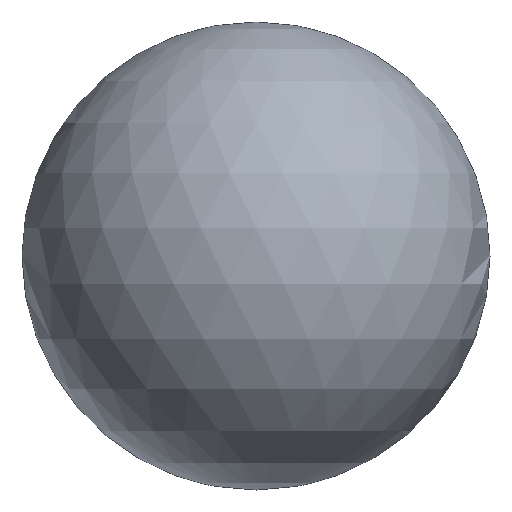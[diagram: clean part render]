
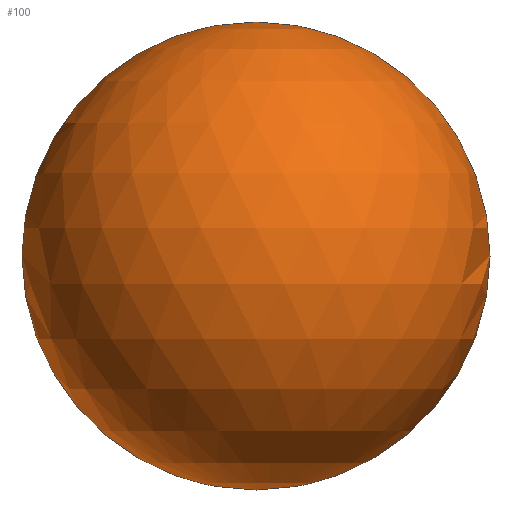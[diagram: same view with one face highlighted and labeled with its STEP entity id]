
A CAD part, front view. The second image highlights one B-rep face of the part: STEP entity #100.
In plain terms, the highlighted spherical face has radius 15 mm.
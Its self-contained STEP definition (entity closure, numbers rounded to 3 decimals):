
#100 = ADVANCED_FACE( '', ( #257 ), #258, .T. );
#112 = VERTEX_POINT( '', #273 );
#132 = VERTEX_POINT( '', #295 );
#160 = EDGE_CURVE( '', #132, #112, #324, .T. );
#172 = EDGE_CURVE( '', #112, #132, #338, .T. );
#257 = FACE_OUTER_BOUND( '', #422, .T. );
#258 = SPHERICAL_SURFACE( '', #423, 15. );
#273 = CARTESIAN_POINT( '', ( 0., -26., -15. ) );
#295 = CARTESIAN_POINT( '', ( 0., -26., 15. ) );
#324 = CIRCLE( '', #506, 15. );
#338 = CIRCLE( '', #522, 15. );
#422 = EDGE_LOOP( '', ( #623, #624 ) );
#423 = AXIS2_PLACEMENT_3D( '', #625, #626, #627 );
#506 = AXIS2_PLACEMENT_3D( '', #701, #702, #703 );
#522 = AXIS2_PLACEMENT_3D( '', #723, #724, #725 );
#623 = ORIENTED_EDGE( '', *, *, #172, .T. );
#624 = ORIENTED_EDGE( '', *, *, #160, .T. );
#625 = CARTESIAN_POINT( '', ( 0., -26., 0. ) );
#626 = DIRECTION( '', ( 0., 0., 1. ) );
#627 = DIRECTION( '', ( 1., 0., 0. ) );
#701 = CARTESIAN_POINT( '', ( 0., -26., 0. ) );
#702 = DIRECTION( '', ( 0., -1., 0. ) );
#703 = DIRECTION( '', ( 0., 0., 1. ) );
#723 = CARTESIAN_POINT( '', ( 0., -26., 0. ) );
#724 = DIRECTION( '', ( 0., -1., 0. ) );
#725 = DIRECTION( '', ( 0., 0., 1. ) );
